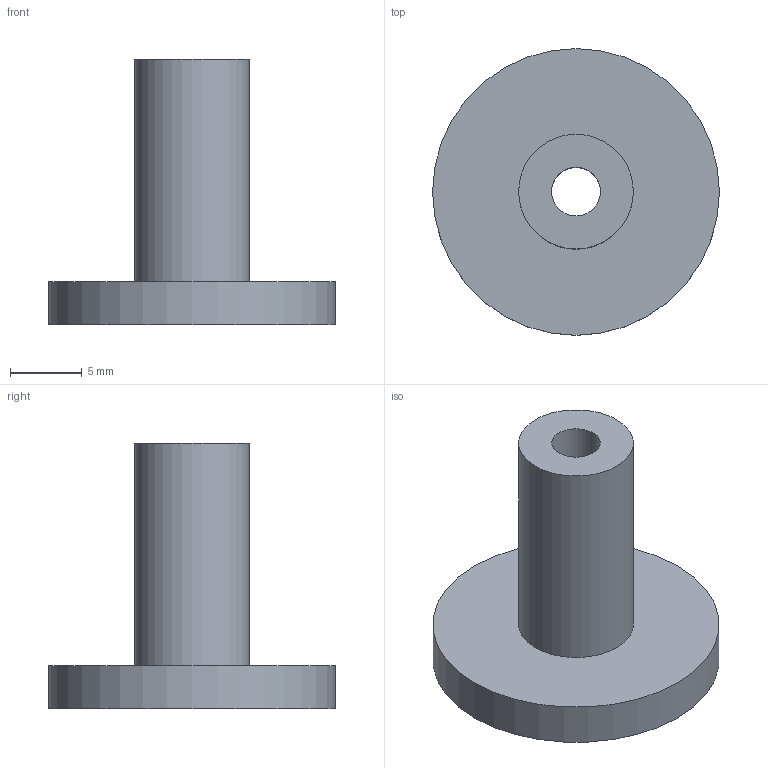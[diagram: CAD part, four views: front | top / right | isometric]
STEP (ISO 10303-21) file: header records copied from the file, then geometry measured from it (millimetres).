
FILE_DESCRIPTION(('Open CASCADE Model'),'2;1');
FILE_NAME('Open CASCADE Shape Model','2026-09-13T15:34:21',('Author'),( 'Open CASCADE'),'Open CASCADE STEP processor 7.9','build123d', 'Unknown');
FILE_SCHEMA(('AUTOMOTIVE_DESIGN { 1 0 10303 214 1 1 1 1 }'));
Length unit declared in the file: millimetre
Products named in the file (1): COMPOUND
Bounding box: 20 x 20 x 18.5 mm (x, y, z)
Volume: 1553.6 mm3; surface area: 1385.8 mm2
Topology: 1 solids, 1 shells, 6 faces, 9 edges, 6 vertices
Faces by surface type: cylinder 3, plane 3
Full cylindrical faces by diameter (mm): 3.4 x1, 8 x1, 20 x1
Entity records: 270 total; most frequent: DIRECTION 47, CARTESIAN_POINT 40, ORIENTED_EDGE 18, PCURVE 18, DEFINITIONAL_REPRESENTATION 18, LINE 15, VECTOR 15, AXIS2_PLACEMENT_3D 13
